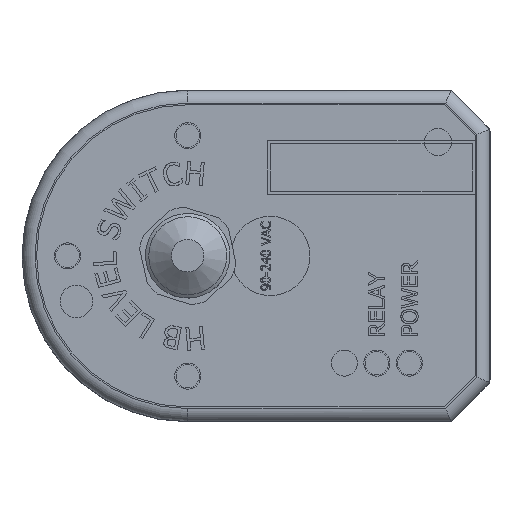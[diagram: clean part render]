
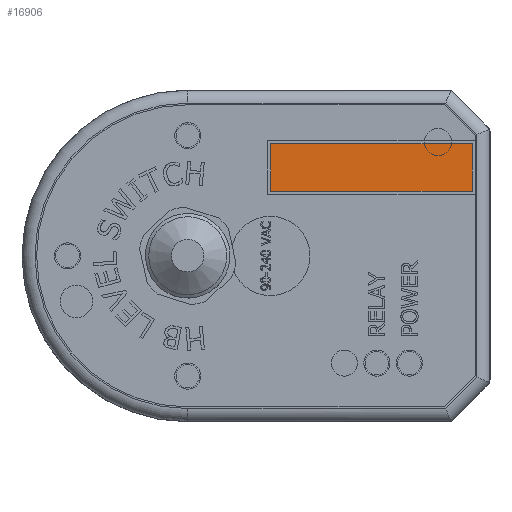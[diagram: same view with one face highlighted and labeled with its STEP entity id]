
A CAD part, top view. The second image highlights one B-rep face of the part: STEP entity #16906.
In plain terms, the highlighted planar face has unit normal (0, 0, 1).
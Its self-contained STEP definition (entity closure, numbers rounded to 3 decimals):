
#16867=CARTESIAN_POINT('',(28.25,13.6,25.064));
#16868=DIRECTION('',(0.,0.,1.0));
#16869=DIRECTION('',(0.,1.0,0.));
#16870=AXIS2_PLACEMENT_3D('',#16867,#16868,#16869);
#16871=PLANE('',#16870);
#16872=CARTESIAN_POINT('',(43.75,17.25,25.064));
#16873=VERTEX_POINT('',#16872);
#16874=CARTESIAN_POINT('',(43.75,9.95,25.064));
#16875=VERTEX_POINT('',#16874);
#16876=CARTESIAN_POINT('',(43.75,17.25,25.064));
#16877=DIRECTION('',(0.0,-1.0,0.));
#16878=VECTOR('',#16877,7.3);
#16879=LINE('',#16876,#16878);
#16880=EDGE_CURVE('',#16873,#16875,#16879,.T.);
#16881=ORIENTED_EDGE('',*,*,#16880,.F.);
#16882=CARTESIAN_POINT('',(12.75,17.25,25.064));
#16883=VERTEX_POINT('',#16882);
#16884=CARTESIAN_POINT('',(12.75,17.25,25.064));
#16885=DIRECTION('',(1.0,0.,0.));
#16886=VECTOR('',#16885,31.);
#16887=LINE('',#16884,#16886);
#16888=EDGE_CURVE('',#16883,#16873,#16887,.T.);
#16889=ORIENTED_EDGE('',*,*,#16888,.F.);
#16890=CARTESIAN_POINT('',(12.75,9.95,25.064));
#16891=VERTEX_POINT('',#16890);
#16892=CARTESIAN_POINT('',(12.75,9.95,25.064));
#16893=DIRECTION('',(0.0,1.0,0.));
#16894=VECTOR('',#16893,7.3);
#16895=LINE('',#16892,#16894);
#16896=EDGE_CURVE('',#16891,#16883,#16895,.T.);
#16897=ORIENTED_EDGE('',*,*,#16896,.F.);
#16898=CARTESIAN_POINT('',(43.75,9.95,25.064));
#16899=DIRECTION('',(-1.0,0.,0.));
#16900=VECTOR('',#16899,31.);
#16901=LINE('',#16898,#16900);
#16902=EDGE_CURVE('',#16875,#16891,#16901,.T.);
#16903=ORIENTED_EDGE('',*,*,#16902,.F.);
#16904=EDGE_LOOP('',(#16881,#16889,#16897,#16903));
#16905=FACE_OUTER_BOUND('',#16904,.T.);
#16906=ADVANCED_FACE('',(#16905),#16871,.T.);
